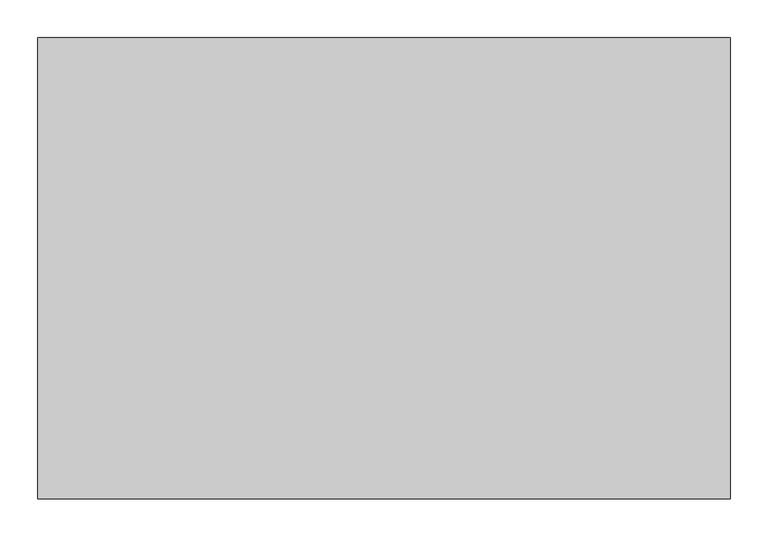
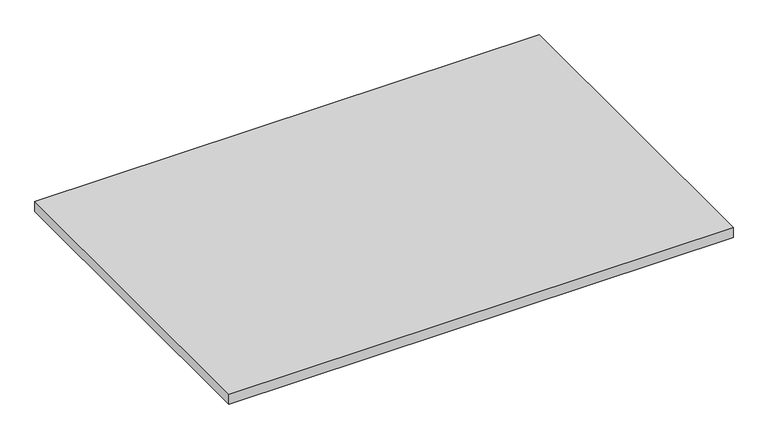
"""IFC4 building model written with IfcOpenShell, lengths in millimetres: furniture geometry, Steelcase - Universal Storage - Adjustable Steel Standard Shelf : 24D x 36W."""

from ifc_helpers import new_model, si_unit, frame, origin, place, context, project, spatial, polyline, outline, extrude, source, transform, mapped, element, save


def furniture_b8e2ff57(model_context):
    return source(origin(), model_context, "Body", "SweptSolid", [
        extrude(outline(polyline([(914.4, 0.0), (914.4, -609.6), (0.0, -609.6), (0.0, 0.0), (914.4, 0.0)])), frame((0.0, 0.0, 285.75), z_axis=(0.0, 0.0, 1.0), x_axis=(1.0, 0.0, 0.0)), (0.0, 0.0, 1.0), 19.05),
    ])


if __name__ == "__main__":
    model = new_model("IFC4")
    model_context = context("Model", 3, world=origin())
    ifc_project = project(units=[si_unit("LENGTHUNIT", "METRE", prefix="MILLI")], contexts=[model_context])
    site = spatial("IfcSite", under=ifc_project)
    building = spatial("IfcBuilding", under=site)
    placement = place(None, origin())
    furniture_shape = furniture_b8e2ff57(model_context)
    element("IfcFurniture", 1, ObjectType="Steelcase - Universal Storage - Adjustable Steel Standard Shelf : 24D x 36W", at=placement, inside=building, context=model_context, shape_type="MappedRepresentation", body=[
        mapped(furniture_shape, transform((0.0, 0.0, 0.0), x_axis=(1.0, 0.0, 0.0), y_axis=(0.0, 1.0, 0.0), z_axis=(0.0, 0.0, 1.0))),
    ])
    save(model, "model.ifc")
